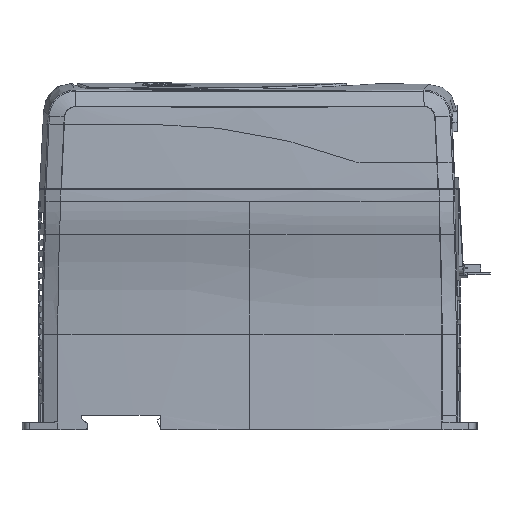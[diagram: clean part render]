
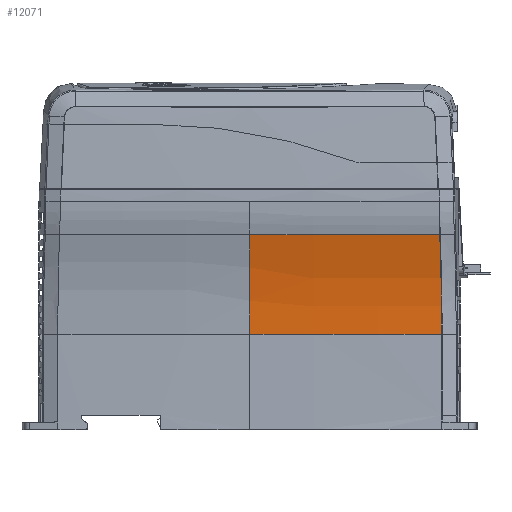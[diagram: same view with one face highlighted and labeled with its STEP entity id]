
A CAD part, left-side view. The second image highlights one B-rep face of the part: STEP entity #12071.
In plain terms, the highlighted toroidal (fillet/blend) face has major radius 2280.75 mm and minor radius 171.75 mm.
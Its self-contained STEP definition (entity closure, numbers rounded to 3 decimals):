
#5869=CARTESIAN_POINT('',(-41.815,-110.709,
87.932));
#5870=CARTESIAN_POINT('',(-37.829,-111.272,
73.32));
#5871=CARTESIAN_POINT('',(-35.797,-111.49,
58.155));
#5872=CARTESIAN_POINT('',(-35.797,-111.49,
43.));
#5874=CARTESIAN_POINT('',(2071.43,-25.02,43.));
#5875=DIRECTION('',(0.,0.,-1.));
#5876=DIRECTION('',(-0.999,-0.041,0.));
#5877=AXIS2_PLACEMENT_3D('',#5874,#5875,#5876);
#5879=CARTESIAN_POINT('',(-209.32,-25.09,
43.));
#5880=DIRECTION('',(0.,-1.,0.));
#5881=DIRECTION('',(1.,0.,0.));
#5882=AXIS2_PLACEMENT_3D('',#5879,#5880,#5881);
#5884=CARTESIAN_POINT('',(2071.43,-25.02,87.931));
#5885=DIRECTION('',(0.,0.,1.));
#5886=DIRECTION('',(-1.,0.,0.));
#5887=AXIS2_PLACEMENT_3D('',#5884,#5885,#5886);
#8276=CARTESIAN_POINT('',(-35.797,-111.49,
43.));
#8278=VERTEX_POINT('',#8276);
#8306=CARTESIAN_POINT('',(-43.551,-25.085,
87.932));
#8308=VERTEX_POINT('',#8306);
#8313=CARTESIAN_POINT('',(-41.815,-110.709,
87.932));
#8314=VERTEX_POINT('',#8313);
#8868=CARTESIAN_POINT('',(-37.57,-25.085,
43.));
#8869=VERTEX_POINT('',#8868);
#12058=CARTESIAN_POINT('',(2071.43,-25.02,
43.));
#12059=DIRECTION('',(0.,0.,-1.));
#12060=DIRECTION('',(-1.,0.001,0.));
#12061=AXIS2_PLACEMENT_3D('',#12058,#12059,#12060);
#12062=TOROIDAL_SURFACE('',#12061,2280.75,171.75);
#12063=ORIENTED_EDGE('',*,*,#12048,.T.);
#12064=ORIENTED_EDGE('',*,*,#9778,.T.);
#12066=ORIENTED_EDGE('',*,*,#12065,.T.);
#12068=ORIENTED_EDGE('',*,*,#12067,.T.);
#12069=EDGE_LOOP('',(#12063,#12064,#12066,#12068));
#12070=FACE_OUTER_BOUND('',#12069,.F.);
#12071=ADVANCED_FACE('',(#12070),#12062,.F.);
#5873=B_SPLINE_CURVE_WITH_KNOTS('',3,(#5869,#5870,#5871,#5872),.UNSPECIFIED.,
.F.,.F.,(4,4),(0.,1.),.UNSPECIFIED.);
#5878=CIRCLE('',#5877,2109.);
#5883=CIRCLE('',#5882,171.75);
#5888=CIRCLE('',#5887,2114.981);
#9778=EDGE_CURVE('',#8278,#8869,#5878,.T.);
#12048=EDGE_CURVE('',#8314,#8278,#5873,.T.);
#12065=EDGE_CURVE('',#8869,#8308,#5883,.T.);
#12067=EDGE_CURVE('',#8308,#8314,#5888,.T.);
